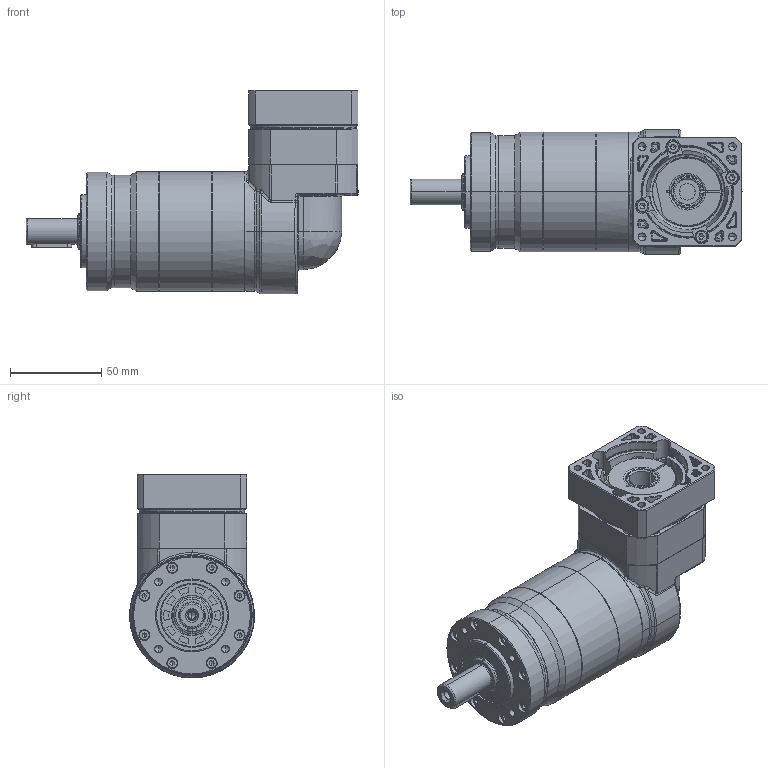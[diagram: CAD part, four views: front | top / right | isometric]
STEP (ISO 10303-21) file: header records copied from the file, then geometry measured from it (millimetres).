
FILE_DESCRIPTION (( 'STEP AP214' ), '1' );
FILE_NAME ('FER060-L2-S2-P1 14-50-70-M5-33.STEP', '2025-02-19T01:06:11', ( '微软用户' ), ( '微软中国' ), 'SwSTEP 2.0', 'SolidWorks 2021', '' );
FILE_SCHEMA (( 'AUTOMOTIVE_DESIGN' ));
Length unit declared in the file: millimetre
Products named in the file (4): EVT060D-L2-8-38.1-66.7-M4-33; FER060D-L2-14-50-70-M5-33; 3.EVT064F眻褒眊极_step_stp_stp.stp; FER060-L2-S2-P1 14-50-70-M5-33
Assembly tree (7 placements, depth 2):
  FER060-L2-S2-P1 14-50-70-M5-33
    FER060D-L2-14-50-70-M5-33
    3.EVT064F眻褒眊极_step_stp_stp.stp
    EVT060D-L2-8-38.1-66.7-M4-33  x5
Bounding box: 182 x 68.5 x 111.75 mm (x, y, z)
Volume: 92080.2 mm3; surface area: 132665.9 mm2
Topology: 1 solids, 44 shells, 1675 faces, 4150 edges, 2573 vertices
Faces by surface type: cylinder 543, plane 472, bspline 324, cone 295, torus 41
Entity records: 67071 total; most frequent: CARTESIAN_POINT 32875, ORIENTED_EDGE 7404, DIRECTION 6470, EDGE_CURVE 3735, AXIS2_PLACEMENT_3D 2593, VERTEX_POINT 2361, EDGE_LOOP 1727, ADVANCED_FACE 1547
